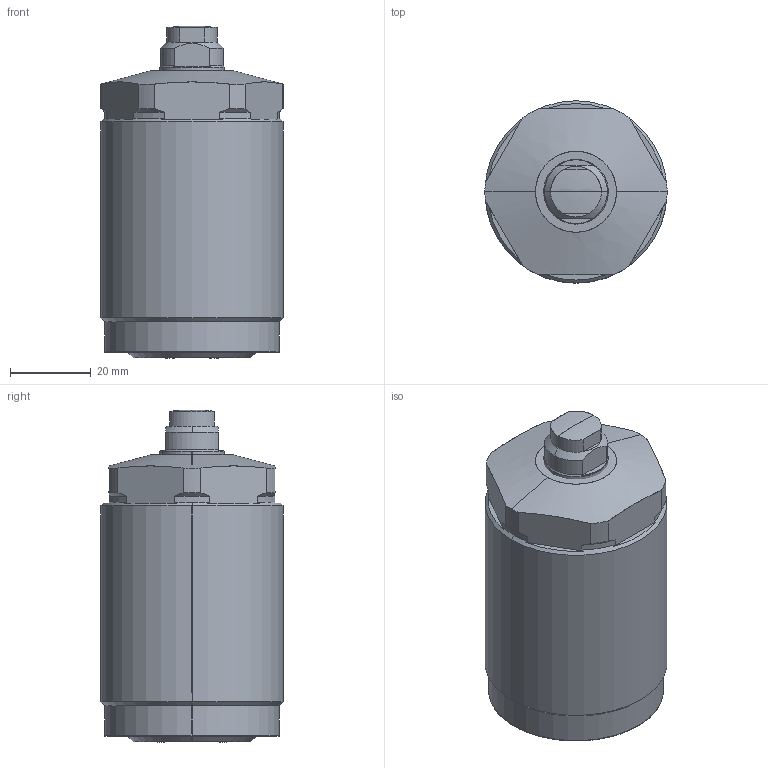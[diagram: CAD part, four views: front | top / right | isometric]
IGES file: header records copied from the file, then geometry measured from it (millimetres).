
Start section: SolidWorks IGES file using analytic representation for surfaces
Global section: file name: C:\Documents and Settings\nijil\My Documents\Clasys1\LD Series\45\0201-0401.IGS; native system: SolidWorks 2010; preprocessor: SolidWorks 2010; author: nijil; date: 130723.105035; units: millimetre
Bounding box: 45 x 45 x 82 mm (x, y, z)
Surface area: 13809.9 mm2 (no closed solid volume)
Topology: 0 solids, 0 shells, 95 faces, 1014 edges, 1013 vertices
Faces by surface type: revolution 53, bspline 42
